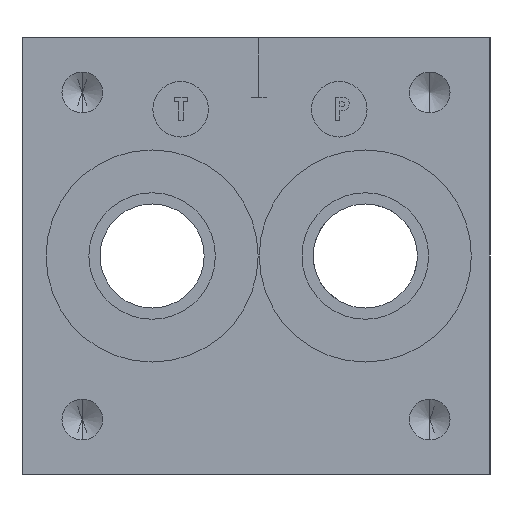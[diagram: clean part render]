
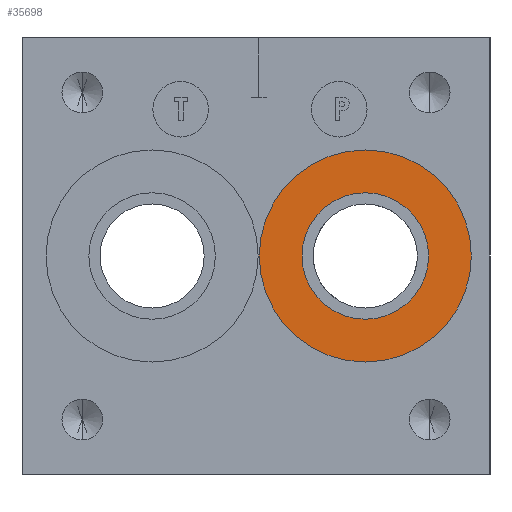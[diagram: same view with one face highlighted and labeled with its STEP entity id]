
A CAD part, left-side view. The second image highlights one B-rep face of the part: STEP entity #35698.
In plain terms, the highlighted planar face has unit normal (-1, 0, 0).
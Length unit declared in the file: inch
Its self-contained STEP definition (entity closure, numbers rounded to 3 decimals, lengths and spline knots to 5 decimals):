
#181 = DIRECTION ( 'NONE',  ( 0., 0., -1. ) ) ;
#1293 = FACE_BOUND ( 'NONE', #23154, .T. ) ;
#1307 = VERTEX_POINT ( 'NONE', #12371 ) ;
#6929 = ORIENTED_EDGE ( 'NONE', *, *, #31253, .T. ) ;
#7127 = CIRCLE ( 'NONE', #15379, 0.39885 ) ;
#7263 = CARTESIAN_POINT ( 'NONE',  ( 0.031, 0.786, 1.375 ) ) ;
#7265 = AXIS2_PLACEMENT_3D ( 'NONE', #10928, #30641, #13753 ) ;
#7456 = DIRECTION ( 'NONE',  ( -1., 0., 0. ) ) ;
#8652 = DIRECTION ( 'NONE',  ( 1., 0., 0. ) ) ;
#10126 = DIRECTION ( 'NONE',  ( 0., 0., 1. ) ) ;
#10928 = CARTESIAN_POINT ( 'NONE',  ( 0.031, 0.786, 1.375 ) ) ;
#12371 = CARTESIAN_POINT ( 'NONE',  ( 0.031, 0.786, 1.77385 ) ) ;
#12679 = VERTEX_POINT ( 'NONE', #20289 ) ;
#13753 = DIRECTION ( 'NONE',  ( 0., 0., 1. ) ) ;
#14033 = ORIENTED_EDGE ( 'NONE', *, *, #34256, .T. ) ;
#15136 = CARTESIAN_POINT ( 'NONE',  ( 0.031, 0.786, 1.375 ) ) ;
#15379 = AXIS2_PLACEMENT_3D ( 'NONE', #15136, #34858, #17982 ) ;
#15504 = CIRCLE ( 'NONE', #31706, 0.6684 ) ;
#15515 = CARTESIAN_POINT ( 'NONE',  ( 0.031, 0.786, 0.7066 ) ) ;
#17982 = DIRECTION ( 'NONE',  ( 0., 0., 1. ) ) ;
#18701 = CIRCLE ( 'NONE', #7265, 0.6684 ) ;
#20289 = CARTESIAN_POINT ( 'NONE',  ( 0.031, 0.786, 0.97615 ) ) ;
#23154 = EDGE_LOOP ( 'NONE', ( #30292, #36433 ) ) ;
#24313 = CARTESIAN_POINT ( 'NONE',  ( 0.031, 0.786, 1.375 ) ) ;
#25704 = EDGE_CURVE ( 'NONE', #12679, #1307, #28643, .T. ) ;
#25784 = AXIS2_PLACEMENT_3D ( 'NONE', #24313, #7456, #27197 ) ;
#25843 = CARTESIAN_POINT ( 'NONE',  ( 0.031, 0.786, 2.0434 ) ) ;
#27007 = DIRECTION ( 'NONE',  ( -1., 0., 0. ) ) ;
#27197 = DIRECTION ( 'NONE',  ( 0., 0., 1. ) ) ;
#28463 = VERTEX_POINT ( 'NONE', #15515 ) ;
#28643 = CIRCLE ( 'NONE', #25784, 0.39885 ) ;
#28874 = VERTEX_POINT ( 'NONE', #25843 ) ;
#30234 = AXIS2_PLACEMENT_3D ( 'NONE', #31251, #8652, #181 ) ;
#30292 = ORIENTED_EDGE ( 'NONE', *, *, #30642, .F. ) ;
#30642 = EDGE_CURVE ( 'NONE', #1307, #12679, #7127, .T. ) ;
#30641 = DIRECTION ( 'NONE',  ( -1., 0., 0. ) ) ;
#31182 = EDGE_LOOP ( 'NONE', ( #6929, #14033 ) ) ;
#31251 = CARTESIAN_POINT ( 'NONE',  ( 0.031, 0.786, 1.375 ) ) ;
#31253 = EDGE_CURVE ( 'NONE', #28874, #28463, #15504, .T. ) ;
#31421 = FACE_OUTER_BOUND ( 'NONE', #31182, .T. ) ;
#31706 = AXIS2_PLACEMENT_3D ( 'NONE', #7263, #27007, #10126 ) ;
#34050 = PLANE ( 'NONE',  #30234 ) ;
#34256 = EDGE_CURVE ( 'NONE', #28463, #28874, #18701, .T. ) ;
#34858 = DIRECTION ( 'NONE',  ( -1., 0., 0. ) ) ;
#35698 = ADVANCED_FACE ( 'NONE', ( #1293, #31421 ), #34050, .F. ) ;
#36433 = ORIENTED_EDGE ( 'NONE', *, *, #25704, .F. ) ;
